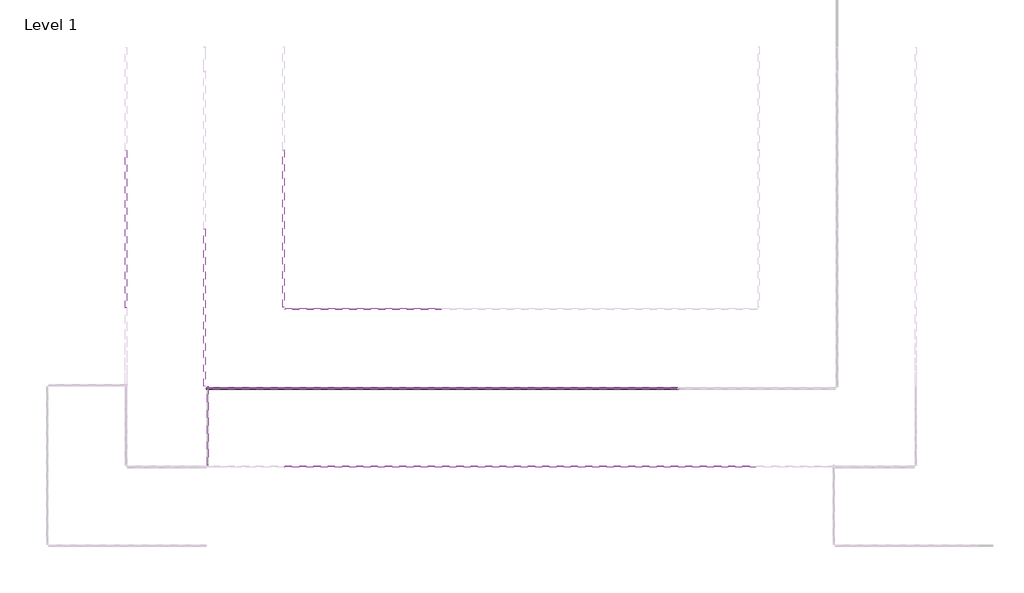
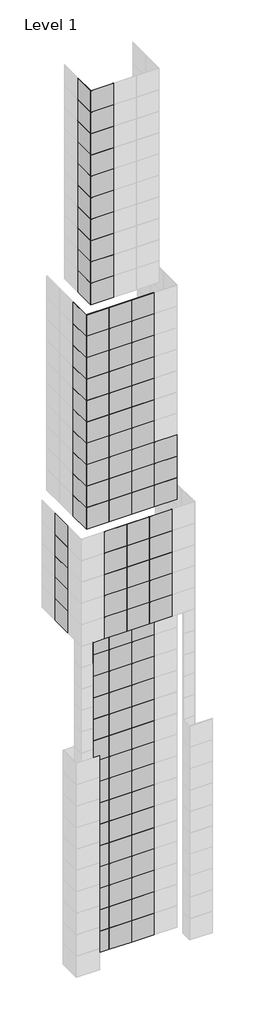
# One storey, part 2 of 15: 134 plates.
"""IFC4 building model written with IfcOpenShell, lengths in millimetres."""

from ifc_helpers import new_model, si_unit, origin, place, context, project, spatial, transform, mapped, element, save
from components import system_panel_glazed_aa64d645, system_panel_glazed_b248394d, system_panel_glazed_d5d3c74f

model = new_model("IFC4")

# Units and contexts
model_context = context("Model", 3, world=origin())
ifc_project = project(units=[si_unit("LENGTHUNIT", "METRE", prefix="MILLI")], contexts=[model_context])

# Site, building, storey
site = spatial("IfcSite", under=ifc_project)
building = spatial("IfcBuilding", under=site)
storey = spatial("IfcBuildingStorey", under=building, Name="Level 1", Elevation=0.0)

# Plates
placement = place(None, origin())
system_panel_glazed_shape = system_panel_glazed_aa64d645(model_context)
element("IfcPlate", 1, ObjectType="System Panel : Glazed", at=placement, inside=storey, context=model_context, shape_type="MappedRepresentation", body=[
    mapped(system_panel_glazed_shape, transform((-16267.4161695, -5742.0504489, 45720.0), x_axis=(1.0, 0.0, 0.0), y_axis=(0.0, 1.0, 0.0), z_axis=(0.0, 0.0, 1.0))),
])
element("IfcPlate", 2, ObjectType="System Panel : Glazed", at=placement, inside=storey, context=model_context, shape_type="MappedRepresentation", body=[
    mapped(system_panel_glazed_shape, transform((-13219.4161695, -5742.0504489, 45720.0), x_axis=(1.0, 0.0, 0.0), y_axis=(0.0, 1.0, 0.0), z_axis=(0.0, 0.0, 1.0))),
])
element("IfcPlate", 3, ObjectType="System Panel : Glazed", at=placement, inside=storey, context=model_context, shape_type="MappedRepresentation", body=[
    mapped(system_panel_glazed_shape, transform((-10171.4161695, -5742.0504489, 45720.0), x_axis=(1.0, 0.0, 0.0), y_axis=(0.0, 1.0, 0.0), z_axis=(0.0, 0.0, 1.0))),
])
element("IfcPlate", 4, ObjectType="System Panel : Glazed", at=placement, inside=storey, context=model_context, shape_type="MappedRepresentation", body=[
    mapped(system_panel_glazed_shape, transform((-16267.4161695, -5742.0504489, 48768.0), x_axis=(1.0, 0.0, 0.0), y_axis=(0.0, 1.0, 0.0), z_axis=(0.0, 0.0, 1.0))),
])
element("IfcPlate", 5, ObjectType="System Panel : Glazed", at=placement, inside=storey, context=model_context, shape_type="MappedRepresentation", body=[
    mapped(system_panel_glazed_shape, transform((-13219.4161695, -5742.0504489, 48768.0), x_axis=(1.0, 0.0, 0.0), y_axis=(0.0, 1.0, 0.0), z_axis=(0.0, 0.0, 1.0))),
])
element("IfcPlate", 6, ObjectType="System Panel : Glazed", at=placement, inside=storey, context=model_context, shape_type="MappedRepresentation", body=[
    mapped(system_panel_glazed_shape, transform((-10171.4161695, -5742.0504489, 48768.0), x_axis=(1.0, 0.0, 0.0), y_axis=(0.0, 1.0, 0.0), z_axis=(0.0, 0.0, 1.0))),
])
element("IfcPlate", 7, ObjectType="System Panel : Glazed", at=placement, inside=storey, context=model_context, shape_type="MappedRepresentation", body=[
    mapped(system_panel_glazed_shape, transform((-16267.4161695, -5742.0504489, 51816.0), x_axis=(1.0, 0.0, 0.0), y_axis=(0.0, 1.0, 0.0), z_axis=(0.0, 0.0, 1.0))),
])
element("IfcPlate", 8, ObjectType="System Panel : Glazed", at=placement, inside=storey, context=model_context, shape_type="MappedRepresentation", body=[
    mapped(system_panel_glazed_shape, transform((-13219.4161695, -5742.0504489, 51816.0), x_axis=(1.0, 0.0, 0.0), y_axis=(0.0, 1.0, 0.0), z_axis=(0.0, 0.0, 1.0))),
])
element("IfcPlate", 9, ObjectType="System Panel : Glazed", at=placement, inside=storey, context=model_context, shape_type="MappedRepresentation", body=[
    mapped(system_panel_glazed_shape, transform((-10171.4161695, -5742.0504489, 51816.0), x_axis=(1.0, 0.0, 0.0), y_axis=(0.0, 1.0, 0.0), z_axis=(0.0, 0.0, 1.0))),
])
element("IfcPlate", 10, ObjectType="System Panel : Glazed", at=placement, inside=storey, context=model_context, shape_type="MappedRepresentation", body=[
    mapped(system_panel_glazed_shape, transform((-16267.4161695, -5742.0504489, 54864.0), x_axis=(1.0, 0.0, 0.0), y_axis=(0.0, 1.0, 0.0), z_axis=(0.0, 0.0, 1.0))),
])
element("IfcPlate", 11, ObjectType="System Panel : Glazed", at=placement, inside=storey, context=model_context, shape_type="MappedRepresentation", body=[
    mapped(system_panel_glazed_shape, transform((-13219.4161695, -5742.0504489, 54864.0), x_axis=(1.0, 0.0, 0.0), y_axis=(0.0, 1.0, 0.0), z_axis=(0.0, 0.0, 1.0))),
])
element("IfcPlate", 12, ObjectType="System Panel : Glazed", at=placement, inside=storey, context=model_context, shape_type="MappedRepresentation", body=[
    mapped(system_panel_glazed_shape, transform((-10171.4161695, -5742.0504489, 54864.0), x_axis=(1.0, 0.0, 0.0), y_axis=(0.0, 1.0, 0.0), z_axis=(0.0, 0.0, 1.0))),
])
element("IfcPlate", 13, ObjectType="System Panel : Glazed", at=placement, inside=storey, context=model_context, shape_type="MappedRepresentation", body=[
    mapped(system_panel_glazed_shape, transform((-16267.4161695, -5742.0504489, 57912.0), x_axis=(1.0, 0.0, 0.0), y_axis=(0.0, 1.0, 0.0), z_axis=(0.0, 0.0, 1.0))),
])
element("IfcPlate", 14, ObjectType="System Panel : Glazed", at=placement, inside=storey, context=model_context, shape_type="MappedRepresentation", body=[
    mapped(system_panel_glazed_shape, transform((-13219.4161695, -5742.0504489, 57912.0), x_axis=(1.0, 0.0, 0.0), y_axis=(0.0, 1.0, 0.0), z_axis=(0.0, 0.0, 1.0))),
])
element("IfcPlate", 15, ObjectType="System Panel : Glazed", at=placement, inside=storey, context=model_context, shape_type="MappedRepresentation", body=[
    mapped(system_panel_glazed_shape, transform((-10171.4161695, -5742.0504489, 57912.0), x_axis=(1.0, 0.0, 0.0), y_axis=(0.0, 1.0, 0.0), z_axis=(0.0, 0.0, 1.0))),
])
element("IfcPlate", 16, ObjectType="System Panel : Glazed", at=placement, inside=storey, context=model_context, shape_type="MappedRepresentation", body=[
    mapped(system_panel_glazed_shape, transform((-20839.4161695, -1170.0504489, 45720.0), x_axis=(0.0, -1.0, 0.0), y_axis=(1.0, 0.0, 0.0), z_axis=(0.0, 0.0, 1.0))),
])
element("IfcPlate", 17, ObjectType="System Panel : Glazed", at=placement, inside=storey, context=model_context, shape_type="MappedRepresentation", body=[
    mapped(system_panel_glazed_shape, transform((-20839.4161695, -1170.0504489, 48768.0), x_axis=(0.0, -1.0, 0.0), y_axis=(1.0, 0.0, 0.0), z_axis=(0.0, 0.0, 1.0))),
])
element("IfcPlate", 18, ObjectType="System Panel : Glazed", at=placement, inside=storey, context=model_context, shape_type="MappedRepresentation", body=[
    mapped(system_panel_glazed_shape, transform((-20839.4161695, -1170.0504489, 51816.0), x_axis=(0.0, -1.0, 0.0), y_axis=(1.0, 0.0, 0.0), z_axis=(0.0, 0.0, 1.0))),
])
element("IfcPlate", 19, ObjectType="System Panel : Glazed", at=placement, inside=storey, context=model_context, shape_type="MappedRepresentation", body=[
    mapped(system_panel_glazed_shape, transform((-20839.4161695, -1170.0504489, 54864.0), x_axis=(0.0, -1.0, 0.0), y_axis=(1.0, 0.0, 0.0), z_axis=(0.0, 0.0, 1.0))),
])
element("IfcPlate", 20, ObjectType="System Panel : Glazed", at=placement, inside=storey, context=model_context, shape_type="MappedRepresentation", body=[
    mapped(system_panel_glazed_shape, transform((-20839.4161695, -1170.0504489, 57912.0), x_axis=(0.0, -1.0, 0.0), y_axis=(1.0, 0.0, 0.0), z_axis=(0.0, 0.0, 1.0))),
])
element("IfcPlate", 21, ObjectType="System Panel : Glazed", at=placement, inside=storey, context=model_context, shape_type="MappedRepresentation", body=[
    mapped(system_panel_glazed_shape, transform((-17791.4161695, -4218.0504489, 60960.0), x_axis=(1.0, 0.0, 0.0), y_axis=(0.0, 1.0, 0.0), z_axis=(0.0, 0.0, 1.0))),
])
element("IfcPlate", 22, ObjectType="System Panel : Glazed", at=placement, inside=storey, context=model_context, shape_type="MappedRepresentation", body=[
    mapped(system_panel_glazed_shape, transform((-14743.4161695, -4218.0504489, 60960.0), x_axis=(1.0, 0.0, 0.0), y_axis=(0.0, 1.0, 0.0), z_axis=(0.0, 0.0, 1.0))),
])
element("IfcPlate", 23, ObjectType="System Panel : Glazed", at=placement, inside=storey, context=model_context, shape_type="MappedRepresentation", body=[
    mapped(system_panel_glazed_shape, transform((-11695.4161695, -4218.0504489, 60960.0), x_axis=(1.0, 0.0, 0.0), y_axis=(0.0, 1.0, 0.0), z_axis=(0.0, 0.0, 1.0))),
])
element("IfcPlate", 24, ObjectType="System Panel : Glazed", at=placement, inside=storey, context=model_context, shape_type="MappedRepresentation", body=[
    mapped(system_panel_glazed_shape, transform((-8647.4161695, -4218.0504489, 60960.0), x_axis=(1.0, 0.0, 0.0), y_axis=(0.0, 1.0, 0.0), z_axis=(0.0, 0.0, 1.0))),
])
element("IfcPlate", 25, ObjectType="System Panel : Glazed", at=placement, inside=storey, context=model_context, shape_type="MappedRepresentation", body=[
    mapped(system_panel_glazed_shape, transform((-17791.4161695, -4218.0504489, 64008.0), x_axis=(1.0, 0.0, 0.0), y_axis=(0.0, 1.0, 0.0), z_axis=(0.0, 0.0, 1.0))),
])
element("IfcPlate", 26, ObjectType="System Panel : Glazed", at=placement, inside=storey, context=model_context, shape_type="MappedRepresentation", body=[
    mapped(system_panel_glazed_shape, transform((-14743.4161695, -4218.0504489, 64008.0), x_axis=(1.0, 0.0, 0.0), y_axis=(0.0, 1.0, 0.0), z_axis=(0.0, 0.0, 1.0))),
])
element("IfcPlate", 27, ObjectType="System Panel : Glazed", at=placement, inside=storey, context=model_context, shape_type="MappedRepresentation", body=[
    mapped(system_panel_glazed_shape, transform((-11695.4161695, -4218.0504489, 64008.0), x_axis=(1.0, 0.0, 0.0), y_axis=(0.0, 1.0, 0.0), z_axis=(0.0, 0.0, 1.0))),
])
element("IfcPlate", 28, ObjectType="System Panel : Glazed", at=placement, inside=storey, context=model_context, shape_type="MappedRepresentation", body=[
    mapped(system_panel_glazed_shape, transform((-8647.4161695, -4218.0504489, 64008.0), x_axis=(1.0, 0.0, 0.0), y_axis=(0.0, 1.0, 0.0), z_axis=(0.0, 0.0, 1.0))),
])
element("IfcPlate", 29, ObjectType="System Panel : Glazed", at=placement, inside=storey, context=model_context, shape_type="MappedRepresentation", body=[
    mapped(system_panel_glazed_shape, transform((-17791.4161695, -4218.0504489, 67056.0), x_axis=(1.0, 0.0, 0.0), y_axis=(0.0, 1.0, 0.0), z_axis=(0.0, 0.0, 1.0))),
])
element("IfcPlate", 30, ObjectType="System Panel : Glazed", at=placement, inside=storey, context=model_context, shape_type="MappedRepresentation", body=[
    mapped(system_panel_glazed_shape, transform((-14743.4161695, -4218.0504489, 67056.0), x_axis=(1.0, 0.0, 0.0), y_axis=(0.0, 1.0, 0.0), z_axis=(0.0, 0.0, 1.0))),
])
element("IfcPlate", 31, ObjectType="System Panel : Glazed", at=placement, inside=storey, context=model_context, shape_type="MappedRepresentation", body=[
    mapped(system_panel_glazed_shape, transform((-11695.4161695, -4218.0504489, 67056.0), x_axis=(1.0, 0.0, 0.0), y_axis=(0.0, 1.0, 0.0), z_axis=(0.0, 0.0, 1.0))),
])
element("IfcPlate", 32, ObjectType="System Panel : Glazed", at=placement, inside=storey, context=model_context, shape_type="MappedRepresentation", body=[
    mapped(system_panel_glazed_shape, transform((-8647.4161695, -4218.0504489, 67056.0), x_axis=(1.0, 0.0, 0.0), y_axis=(0.0, 1.0, 0.0), z_axis=(0.0, 0.0, 1.0))),
])
element("IfcPlate", 33, ObjectType="System Panel : Glazed", at=placement, inside=storey, context=model_context, shape_type="MappedRepresentation", body=[
    mapped(system_panel_glazed_shape, transform((-17791.4161695, -4218.0504489, 70104.0), x_axis=(1.0, 0.0, 0.0), y_axis=(0.0, 1.0, 0.0), z_axis=(0.0, 0.0, 1.0))),
])
element("IfcPlate", 34, ObjectType="System Panel : Glazed", at=placement, inside=storey, context=model_context, shape_type="MappedRepresentation", body=[
    mapped(system_panel_glazed_shape, transform((-14743.4161695, -4218.0504489, 70104.0), x_axis=(1.0, 0.0, 0.0), y_axis=(0.0, 1.0, 0.0), z_axis=(0.0, 0.0, 1.0))),
])
element("IfcPlate", 35, ObjectType="System Panel : Glazed", at=placement, inside=storey, context=model_context, shape_type="MappedRepresentation", body=[
    mapped(system_panel_glazed_shape, transform((-11695.4161695, -4218.0504489, 70104.0), x_axis=(1.0, 0.0, 0.0), y_axis=(0.0, 1.0, 0.0), z_axis=(0.0, 0.0, 1.0))),
])
element("IfcPlate", 36, ObjectType="System Panel : Glazed", at=placement, inside=storey, context=model_context, shape_type="MappedRepresentation", body=[
    mapped(system_panel_glazed_shape, transform((-17791.4161695, -4218.0504489, 73152.0), x_axis=(1.0, 0.0, 0.0), y_axis=(0.0, 1.0, 0.0), z_axis=(0.0, 0.0, 1.0))),
])
element("IfcPlate", 37, ObjectType="System Panel : Glazed", at=placement, inside=storey, context=model_context, shape_type="MappedRepresentation", body=[
    mapped(system_panel_glazed_shape, transform((-14743.4161695, -4218.0504489, 73152.0), x_axis=(1.0, 0.0, 0.0), y_axis=(0.0, 1.0, 0.0), z_axis=(0.0, 0.0, 1.0))),
])
element("IfcPlate", 38, ObjectType="System Panel : Glazed", at=placement, inside=storey, context=model_context, shape_type="MappedRepresentation", body=[
    mapped(system_panel_glazed_shape, transform((-11695.4161695, -4218.0504489, 73152.0), x_axis=(1.0, 0.0, 0.0), y_axis=(0.0, 1.0, 0.0), z_axis=(0.0, 0.0, 1.0))),
])
element("IfcPlate", 39, ObjectType="System Panel : Glazed", at=placement, inside=storey, context=model_context, shape_type="MappedRepresentation", body=[
    mapped(system_panel_glazed_shape, transform((-17791.4161695, -4218.0504489, 76200.0), x_axis=(1.0, 0.0, 0.0), y_axis=(0.0, 1.0, 0.0), z_axis=(0.0, 0.0, 1.0))),
])
element("IfcPlate", 40, ObjectType="System Panel : Glazed", at=placement, inside=storey, context=model_context, shape_type="MappedRepresentation", body=[
    mapped(system_panel_glazed_shape, transform((-14743.4161695, -4218.0504489, 76200.0), x_axis=(1.0, 0.0, 0.0), y_axis=(0.0, 1.0, 0.0), z_axis=(0.0, 0.0, 1.0))),
])
element("IfcPlate", 41, ObjectType="System Panel : Glazed", at=placement, inside=storey, context=model_context, shape_type="MappedRepresentation", body=[
    mapped(system_panel_glazed_shape, transform((-11695.4161695, -4218.0504489, 76200.0), x_axis=(1.0, 0.0, 0.0), y_axis=(0.0, 1.0, 0.0), z_axis=(0.0, 0.0, 1.0))),
])
element("IfcPlate", 42, ObjectType="System Panel : Glazed", at=placement, inside=storey, context=model_context, shape_type="MappedRepresentation", body=[
    mapped(system_panel_glazed_shape, transform((-17791.4161695, -4218.0504489, 79248.0), x_axis=(1.0, 0.0, 0.0), y_axis=(0.0, 1.0, 0.0), z_axis=(0.0, 0.0, 1.0))),
])
element("IfcPlate", 43, ObjectType="System Panel : Glazed", at=placement, inside=storey, context=model_context, shape_type="MappedRepresentation", body=[
    mapped(system_panel_glazed_shape, transform((-14743.4161695, -4218.0504489, 79248.0), x_axis=(1.0, 0.0, 0.0), y_axis=(0.0, 1.0, 0.0), z_axis=(0.0, 0.0, 1.0))),
])
element("IfcPlate", 44, ObjectType="System Panel : Glazed", at=placement, inside=storey, context=model_context, shape_type="MappedRepresentation", body=[
    mapped(system_panel_glazed_shape, transform((-11695.4161695, -4218.0504489, 79248.0), x_axis=(1.0, 0.0, 0.0), y_axis=(0.0, 1.0, 0.0), z_axis=(0.0, 0.0, 1.0))),
])
element("IfcPlate", 45, ObjectType="System Panel : Glazed", at=placement, inside=storey, context=model_context, shape_type="MappedRepresentation", body=[
    mapped(system_panel_glazed_shape, transform((-17791.4161695, -4218.0504489, 82296.0), x_axis=(1.0, 0.0, 0.0), y_axis=(0.0, 1.0, 0.0), z_axis=(0.0, 0.0, 1.0))),
])
element("IfcPlate", 46, ObjectType="System Panel : Glazed", at=placement, inside=storey, context=model_context, shape_type="MappedRepresentation", body=[
    mapped(system_panel_glazed_shape, transform((-14743.4161695, -4218.0504489, 82296.0), x_axis=(1.0, 0.0, 0.0), y_axis=(0.0, 1.0, 0.0), z_axis=(0.0, 0.0, 1.0))),
])
element("IfcPlate", 47, ObjectType="System Panel : Glazed", at=placement, inside=storey, context=model_context, shape_type="MappedRepresentation", body=[
    mapped(system_panel_glazed_shape, transform((-11695.4161695, -4218.0504489, 82296.0), x_axis=(1.0, 0.0, 0.0), y_axis=(0.0, 1.0, 0.0), z_axis=(0.0, 0.0, 1.0))),
])
element("IfcPlate", 48, ObjectType="System Panel : Glazed", at=placement, inside=storey, context=model_context, shape_type="MappedRepresentation", body=[
    mapped(system_panel_glazed_shape, transform((-17791.4161695, -4218.0504489, 85344.0), x_axis=(1.0, 0.0, 0.0), y_axis=(0.0, 1.0, 0.0), z_axis=(0.0, 0.0, 1.0))),
])
element("IfcPlate", 49, ObjectType="System Panel : Glazed", at=placement, inside=storey, context=model_context, shape_type="MappedRepresentation", body=[
    mapped(system_panel_glazed_shape, transform((-14743.4161695, -4218.0504489, 85344.0), x_axis=(1.0, 0.0, 0.0), y_axis=(0.0, 1.0, 0.0), z_axis=(0.0, 0.0, 1.0))),
])
element("IfcPlate", 50, ObjectType="System Panel : Glazed", at=placement, inside=storey, context=model_context, shape_type="MappedRepresentation", body=[
    mapped(system_panel_glazed_shape, transform((-11695.4161695, -4218.0504489, 85344.0), x_axis=(1.0, 0.0, 0.0), y_axis=(0.0, 1.0, 0.0), z_axis=(0.0, 0.0, 1.0))),
])
element("IfcPlate", 51, ObjectType="System Panel : Glazed", at=placement, inside=storey, context=model_context, shape_type="MappedRepresentation", body=[
    mapped(system_panel_glazed_shape, transform((-17791.4161695, -4218.0504489, 88392.0), x_axis=(1.0, 0.0, 0.0), y_axis=(0.0, 1.0, 0.0), z_axis=(0.0, 0.0, 1.0))),
])
element("IfcPlate", 52, ObjectType="System Panel : Glazed", at=placement, inside=storey, context=model_context, shape_type="MappedRepresentation", body=[
    mapped(system_panel_glazed_shape, transform((-14743.4161695, -4218.0504489, 88392.0), x_axis=(1.0, 0.0, 0.0), y_axis=(0.0, 1.0, 0.0), z_axis=(0.0, 0.0, 1.0))),
])
element("IfcPlate", 53, ObjectType="System Panel : Glazed", at=placement, inside=storey, context=model_context, shape_type="MappedRepresentation", body=[
    mapped(system_panel_glazed_shape, transform((-11695.4161695, -4218.0504489, 88392.0), x_axis=(1.0, 0.0, 0.0), y_axis=(0.0, 1.0, 0.0), z_axis=(0.0, 0.0, 1.0))),
])
element("IfcPlate", 54, ObjectType="System Panel : Glazed", at=placement, inside=storey, context=model_context, shape_type="MappedRepresentation", body=[
    mapped(system_panel_glazed_shape, transform((-19315.4161695, -2694.0504489, 60960.0), x_axis=(0.0, -1.0, 0.0), y_axis=(1.0, 0.0, 0.0), z_axis=(0.0, 0.0, 1.0))),
])
element("IfcPlate", 55, ObjectType="System Panel : Glazed", at=placement, inside=storey, context=model_context, shape_type="MappedRepresentation", body=[
    mapped(system_panel_glazed_shape, transform((-19315.4161695, -2694.0504489, 64008.0), x_axis=(0.0, -1.0, 0.0), y_axis=(1.0, 0.0, 0.0), z_axis=(0.0, 0.0, 1.0))),
])
element("IfcPlate", 56, ObjectType="System Panel : Glazed", at=placement, inside=storey, context=model_context, shape_type="MappedRepresentation", body=[
    mapped(system_panel_glazed_shape, transform((-19315.4161695, -2694.0504489, 67056.0), x_axis=(0.0, -1.0, 0.0), y_axis=(1.0, 0.0, 0.0), z_axis=(0.0, 0.0, 1.0))),
])
element("IfcPlate", 57, ObjectType="System Panel : Glazed", at=placement, inside=storey, context=model_context, shape_type="MappedRepresentation", body=[
    mapped(system_panel_glazed_shape, transform((-19315.4161695, -2694.0504489, 70104.0), x_axis=(0.0, -1.0, 0.0), y_axis=(1.0, 0.0, 0.0), z_axis=(0.0, 0.0, 1.0))),
])
element("IfcPlate", 58, ObjectType="System Panel : Glazed", at=placement, inside=storey, context=model_context, shape_type="MappedRepresentation", body=[
    mapped(system_panel_glazed_shape, transform((-19315.4161695, -2694.0504489, 73152.0), x_axis=(0.0, -1.0, 0.0), y_axis=(1.0, 0.0, 0.0), z_axis=(0.0, 0.0, 1.0))),
])
element("IfcPlate", 59, ObjectType="System Panel : Glazed", at=placement, inside=storey, context=model_context, shape_type="MappedRepresentation", body=[
    mapped(system_panel_glazed_shape, transform((-19315.4161695, -2694.0504489, 76200.0), x_axis=(0.0, -1.0, 0.0), y_axis=(1.0, 0.0, 0.0), z_axis=(0.0, 0.0, 1.0))),
])
element("IfcPlate", 60, ObjectType="System Panel : Glazed", at=placement, inside=storey, context=model_context, shape_type="MappedRepresentation", body=[
    mapped(system_panel_glazed_shape, transform((-19315.4161695, -2694.0504489, 79248.0), x_axis=(0.0, -1.0, 0.0), y_axis=(1.0, 0.0, 0.0), z_axis=(0.0, 0.0, 1.0))),
])
element("IfcPlate", 61, ObjectType="System Panel : Glazed", at=placement, inside=storey, context=model_context, shape_type="MappedRepresentation", body=[
    mapped(system_panel_glazed_shape, transform((-19315.4161695, -2694.0504489, 82296.0), x_axis=(0.0, -1.0, 0.0), y_axis=(1.0, 0.0, 0.0), z_axis=(0.0, 0.0, 1.0))),
])
element("IfcPlate", 62, ObjectType="System Panel : Glazed", at=placement, inside=storey, context=model_context, shape_type="MappedRepresentation", body=[
    mapped(system_panel_glazed_shape, transform((-19315.4161695, -2694.0504489, 85344.0), x_axis=(0.0, -1.0, 0.0), y_axis=(1.0, 0.0, 0.0), z_axis=(0.0, 0.0, 1.0))),
])
element("IfcPlate", 63, ObjectType="System Panel : Glazed", at=placement, inside=storey, context=model_context, shape_type="MappedRepresentation", body=[
    mapped(system_panel_glazed_shape, transform((-19315.4161695, -2694.0504489, 88392.0), x_axis=(0.0, -1.0, 0.0), y_axis=(1.0, 0.0, 0.0), z_axis=(0.0, 0.0, 1.0))),
])
element("IfcPlate", 64, ObjectType="System Panel : Glazed", at=placement, inside=storey, context=model_context, shape_type="MappedRepresentation", body=[
    mapped(system_panel_glazed_shape, transform((-16261.8488996, -2694.0504489, 91440.0), x_axis=(1.0, 0.0, 0.0), y_axis=(0.0, 1.0, 0.0), z_axis=(0.0, 0.0, 1.0))),
])
element("IfcPlate", 65, ObjectType="System Panel : Glazed", at=placement, inside=storey, context=model_context, shape_type="MappedRepresentation", body=[
    mapped(system_panel_glazed_shape, transform((-16261.8488996, -2694.0504489, 94488.0), x_axis=(1.0, 0.0, 0.0), y_axis=(0.0, 1.0, 0.0), z_axis=(0.0, 0.0, 1.0))),
])
element("IfcPlate", 66, ObjectType="System Panel : Glazed", at=placement, inside=storey, context=model_context, shape_type="MappedRepresentation", body=[
    mapped(system_panel_glazed_shape, transform((-16261.8488996, -2694.0504489, 97536.0), x_axis=(1.0, 0.0, 0.0), y_axis=(0.0, 1.0, 0.0), z_axis=(0.0, 0.0, 1.0))),
])
element("IfcPlate", 67, ObjectType="System Panel : Glazed", at=placement, inside=storey, context=model_context, shape_type="MappedRepresentation", body=[
    mapped(system_panel_glazed_shape, transform((-16261.8488996, -2694.0504489, 100584.0), x_axis=(1.0, 0.0, 0.0), y_axis=(0.0, 1.0, 0.0), z_axis=(0.0, 0.0, 1.0))),
])
element("IfcPlate", 68, ObjectType="System Panel : Glazed", at=placement, inside=storey, context=model_context, shape_type="MappedRepresentation", body=[
    mapped(system_panel_glazed_shape, transform((-16261.8488996, -2694.0504489, 103632.0), x_axis=(1.0, 0.0, 0.0), y_axis=(0.0, 1.0, 0.0), z_axis=(0.0, 0.0, 1.0))),
])
element("IfcPlate", 69, ObjectType="System Panel : Glazed", at=placement, inside=storey, context=model_context, shape_type="MappedRepresentation", body=[
    mapped(system_panel_glazed_shape, transform((-16261.8488996, -2694.0504489, 106680.0), x_axis=(1.0, 0.0, 0.0), y_axis=(0.0, 1.0, 0.0), z_axis=(0.0, 0.0, 1.0))),
])
element("IfcPlate", 70, ObjectType="System Panel : Glazed", at=placement, inside=storey, context=model_context, shape_type="MappedRepresentation", body=[
    mapped(system_panel_glazed_shape, transform((-16261.8488996, -2694.0504489, 109728.0), x_axis=(1.0, 0.0, 0.0), y_axis=(0.0, 1.0, 0.0), z_axis=(0.0, 0.0, 1.0))),
])
element("IfcPlate", 71, ObjectType="System Panel : Glazed", at=placement, inside=storey, context=model_context, shape_type="MappedRepresentation", body=[
    mapped(system_panel_glazed_shape, transform((-16261.8488996, -2694.0504489, 112776.0), x_axis=(1.0, 0.0, 0.0), y_axis=(0.0, 1.0, 0.0), z_axis=(0.0, 0.0, 1.0))),
])
element("IfcPlate", 72, ObjectType="System Panel : Glazed", at=placement, inside=storey, context=model_context, shape_type="MappedRepresentation", body=[
    mapped(system_panel_glazed_shape, transform((-16261.8488996, -2694.0504489, 115824.0), x_axis=(1.0, 0.0, 0.0), y_axis=(0.0, 1.0, 0.0), z_axis=(0.0, 0.0, 1.0))),
])
element("IfcPlate", 73, ObjectType="System Panel : Glazed", at=placement, inside=storey, context=model_context, shape_type="MappedRepresentation", body=[
    mapped(system_panel_glazed_shape, transform((-16261.8488996, -2694.0504489, 118872.0), x_axis=(1.0, 0.0, 0.0), y_axis=(0.0, 1.0, 0.0), z_axis=(0.0, 0.0, 1.0))),
])
element("IfcPlate", 74, ObjectType="System Panel : Glazed", at=placement, inside=storey, context=model_context, shape_type="MappedRepresentation", body=[
    mapped(system_panel_glazed_shape, transform((-17785.8488996, -1170.0504489, 91440.0), x_axis=(0.0, -1.0, 0.0), y_axis=(1.0, 0.0, 0.0), z_axis=(0.0, 0.0, 1.0))),
])
element("IfcPlate", 75, ObjectType="System Panel : Glazed", at=placement, inside=storey, context=model_context, shape_type="MappedRepresentation", body=[
    mapped(system_panel_glazed_shape, transform((-17785.8488996, -1170.0504489, 94488.0), x_axis=(0.0, -1.0, 0.0), y_axis=(1.0, 0.0, 0.0), z_axis=(0.0, 0.0, 1.0))),
])
element("IfcPlate", 76, ObjectType="System Panel : Glazed", at=placement, inside=storey, context=model_context, shape_type="MappedRepresentation", body=[
    mapped(system_panel_glazed_shape, transform((-17785.8488996, -1170.0504489, 97536.0), x_axis=(0.0, -1.0, 0.0), y_axis=(1.0, 0.0, 0.0), z_axis=(0.0, 0.0, 1.0))),
])
element("IfcPlate", 77, ObjectType="System Panel : Glazed", at=placement, inside=storey, context=model_context, shape_type="MappedRepresentation", body=[
    mapped(system_panel_glazed_shape, transform((-17785.8488996, -1170.0504489, 100584.0), x_axis=(0.0, -1.0, 0.0), y_axis=(1.0, 0.0, 0.0), z_axis=(0.0, 0.0, 1.0))),
])
element("IfcPlate", 78, ObjectType="System Panel : Glazed", at=placement, inside=storey, context=model_context, shape_type="MappedRepresentation", body=[
    mapped(system_panel_glazed_shape, transform((-17785.8488996, -1170.0504489, 103632.0), x_axis=(0.0, -1.0, 0.0), y_axis=(1.0, 0.0, 0.0), z_axis=(0.0, 0.0, 1.0))),
])
element("IfcPlate", 79, ObjectType="System Panel : Glazed", at=placement, inside=storey, context=model_context, shape_type="MappedRepresentation", body=[
    mapped(system_panel_glazed_shape, transform((-17785.8488996, -1170.0504489, 106680.0), x_axis=(0.0, -1.0, 0.0), y_axis=(1.0, 0.0, 0.0), z_axis=(0.0, 0.0, 1.0))),
])
element("IfcPlate", 80, ObjectType="System Panel : Glazed", at=placement, inside=storey, context=model_context, shape_type="MappedRepresentation", body=[
    mapped(system_panel_glazed_shape, transform((-17785.8488996, -1170.0504489, 109728.0), x_axis=(0.0, -1.0, 0.0), y_axis=(1.0, 0.0, 0.0), z_axis=(0.0, 0.0, 1.0))),
])
element("IfcPlate", 81, ObjectType="System Panel : Glazed", at=placement, inside=storey, context=model_context, shape_type="MappedRepresentation", body=[
    mapped(system_panel_glazed_shape, transform((-17785.8488996, -1170.0504489, 112776.0), x_axis=(0.0, -1.0, 0.0), y_axis=(1.0, 0.0, 0.0), z_axis=(0.0, 0.0, 1.0))),
])
element("IfcPlate", 82, ObjectType="System Panel : Glazed", at=placement, inside=storey, context=model_context, shape_type="MappedRepresentation", body=[
    mapped(system_panel_glazed_shape, transform((-17785.8488996, -1170.0504489, 115824.0), x_axis=(0.0, -1.0, 0.0), y_axis=(1.0, 0.0, 0.0), z_axis=(0.0, 0.0, 1.0))),
])
element("IfcPlate", 83, ObjectType="System Panel : Glazed", at=placement, inside=storey, context=model_context, shape_type="MappedRepresentation", body=[
    mapped(system_panel_glazed_shape, transform((-17785.8488996, -1170.0504489, 118872.0), x_axis=(0.0, -1.0, 0.0), y_axis=(1.0, 0.0, 0.0), z_axis=(0.0, 0.0, 1.0))),
])
element("IfcPlate", 84, ObjectType="System Panel : Glazed", at=placement, inside=storey, context=model_context, shape_type="MappedRepresentation", body=[
    mapped(system_panel_glazed_shape, transform((-20839.4161695, -1170.0504489, 45720.0), x_axis=(0.0, -1.0, 0.0), y_axis=(1.0, 0.0, 0.0), z_axis=(0.0, 0.0, 1.0))),
])
element("IfcPlate", 85, ObjectType="System Panel : Glazed", at=placement, inside=storey, context=model_context, shape_type="MappedRepresentation", body=[
    mapped(system_panel_glazed_shape, transform((-20839.4161695, -1170.0504489, 48768.0), x_axis=(0.0, -1.0, 0.0), y_axis=(1.0, 0.0, 0.0), z_axis=(0.0, 0.0, 1.0))),
])
element("IfcPlate", 86, ObjectType="System Panel : Glazed", at=placement, inside=storey, context=model_context, shape_type="MappedRepresentation", body=[
    mapped(system_panel_glazed_shape, transform((-20839.4161695, -1170.0504489, 51816.0), x_axis=(0.0, -1.0, 0.0), y_axis=(1.0, 0.0, 0.0), z_axis=(0.0, 0.0, 1.0))),
])
element("IfcPlate", 87, ObjectType="System Panel : Glazed", at=placement, inside=storey, context=model_context, shape_type="MappedRepresentation", body=[
    mapped(system_panel_glazed_shape, transform((-20839.4161695, -1170.0504489, 54864.0), x_axis=(0.0, -1.0, 0.0), y_axis=(1.0, 0.0, 0.0), z_axis=(0.0, 0.0, 1.0))),
])
element("IfcPlate", 88, ObjectType="System Panel : Glazed", at=placement, inside=storey, context=model_context, shape_type="MappedRepresentation", body=[
    mapped(system_panel_glazed_shape, transform((-20839.4161695, -1170.0504489, 57912.0), x_axis=(0.0, -1.0, 0.0), y_axis=(1.0, 0.0, 0.0), z_axis=(0.0, 0.0, 1.0))),
])
system_panel_glazed_2_shape = system_panel_glazed_b248394d(model_context)
element("IfcPlate", 89, ObjectType="System Panel : Glazed", at=placement, inside=storey, context=model_context, shape_type="MappedRepresentation", body=[
    mapped(system_panel_glazed_2_shape, transform((-11695.4161695, -4218.0504489, 0.0), x_axis=(-1.0, 0.0, 0.0), y_axis=(0.0, -1.0, 0.0), z_axis=(0.0, 0.0, 1.0))),
])
element("IfcPlate", 90, ObjectType="System Panel : Glazed", at=placement, inside=storey, context=model_context, shape_type="MappedRepresentation", body=[
    mapped(system_panel_glazed_2_shape, transform((-14743.4161695, -4218.0504489, 0.0), x_axis=(-1.0, 0.0, 0.0), y_axis=(0.0, -1.0, 0.0), z_axis=(0.0, 0.0, 1.0))),
])
element("IfcPlate", 91, ObjectType="System Panel : Glazed", at=placement, inside=storey, context=model_context, shape_type="MappedRepresentation", body=[
    mapped(system_panel_glazed_2_shape, transform((-17791.4161695, -4218.0504489, 0.0), x_axis=(-1.0, 0.0, 0.0), y_axis=(0.0, -1.0, 0.0), z_axis=(0.0, 0.0, 1.0))),
])
element("IfcPlate", 92, ObjectType="System Panel : Glazed", at=placement, inside=storey, context=model_context, shape_type="MappedRepresentation", body=[
    mapped(system_panel_glazed_2_shape, transform((-11695.4161695, -4218.0504489, 3048.0), x_axis=(-1.0, 0.0, 0.0), y_axis=(0.0, -1.0, 0.0), z_axis=(0.0, 0.0, 1.0))),
])
element("IfcPlate", 93, ObjectType="System Panel : Glazed", at=placement, inside=storey, context=model_context, shape_type="MappedRepresentation", body=[
    mapped(system_panel_glazed_2_shape, transform((-14743.4161695, -4218.0504489, 3048.0), x_axis=(-1.0, 0.0, 0.0), y_axis=(0.0, -1.0, 0.0), z_axis=(0.0, 0.0, 1.0))),
])
element("IfcPlate", 94, ObjectType="System Panel : Glazed", at=placement, inside=storey, context=model_context, shape_type="MappedRepresentation", body=[
    mapped(system_panel_glazed_2_shape, transform((-17791.4161695, -4218.0504489, 3048.0), x_axis=(-1.0, 0.0, 0.0), y_axis=(0.0, -1.0, 0.0), z_axis=(0.0, 0.0, 1.0))),
])
element("IfcPlate", 95, ObjectType="System Panel : Glazed", at=placement, inside=storey, context=model_context, shape_type="MappedRepresentation", body=[
    mapped(system_panel_glazed_2_shape, transform((-11695.4161695, -4218.0504489, 6096.0), x_axis=(-1.0, 0.0, 0.0), y_axis=(0.0, -1.0, 0.0), z_axis=(0.0, 0.0, 1.0))),
])
element("IfcPlate", 96, ObjectType="System Panel : Glazed", at=placement, inside=storey, context=model_context, shape_type="MappedRepresentation", body=[
    mapped(system_panel_glazed_2_shape, transform((-14743.4161695, -4218.0504489, 6096.0), x_axis=(-1.0, 0.0, 0.0), y_axis=(0.0, -1.0, 0.0), z_axis=(0.0, 0.0, 1.0))),
])
element("IfcPlate", 97, ObjectType="System Panel : Glazed", at=placement, inside=storey, context=model_context, shape_type="MappedRepresentation", body=[
    mapped(system_panel_glazed_2_shape, transform((-17791.4161695, -4218.0504489, 6096.0), x_axis=(-1.0, 0.0, 0.0), y_axis=(0.0, -1.0, 0.0), z_axis=(0.0, 0.0, 1.0))),
])
element("IfcPlate", 98, ObjectType="System Panel : Glazed", at=placement, inside=storey, context=model_context, shape_type="MappedRepresentation", body=[
    mapped(system_panel_glazed_2_shape, transform((-11695.4161695, -4218.0504489, 9144.0), x_axis=(-1.0, 0.0, 0.0), y_axis=(0.0, -1.0, 0.0), z_axis=(0.0, 0.0, 1.0))),
])
element("IfcPlate", 99, ObjectType="System Panel : Glazed", at=placement, inside=storey, context=model_context, shape_type="MappedRepresentation", body=[
    mapped(system_panel_glazed_2_shape, transform((-14743.4161695, -4218.0504489, 9144.0), x_axis=(-1.0, 0.0, 0.0), y_axis=(0.0, -1.0, 0.0), z_axis=(0.0, 0.0, 1.0))),
])
element("IfcPlate", 100, ObjectType="System Panel : Glazed", at=placement, inside=storey, context=model_context, shape_type="MappedRepresentation", body=[
    mapped(system_panel_glazed_2_shape, transform((-17791.4161695, -4218.0504489, 9144.0), x_axis=(-1.0, 0.0, 0.0), y_axis=(0.0, -1.0, 0.0), z_axis=(0.0, 0.0, 1.0))),
])
element("IfcPlate", 101, ObjectType="System Panel : Glazed", at=placement, inside=storey, context=model_context, shape_type="MappedRepresentation", body=[
    mapped(system_panel_glazed_2_shape, transform((-11695.4161695, -4218.0504489, 12192.0), x_axis=(-1.0, 0.0, 0.0), y_axis=(0.0, -1.0, 0.0), z_axis=(0.0, 0.0, 1.0))),
])
element("IfcPlate", 102, ObjectType="System Panel : Glazed", at=placement, inside=storey, context=model_context, shape_type="MappedRepresentation", body=[
    mapped(system_panel_glazed_2_shape, transform((-14743.4161695, -4218.0504489, 12192.0), x_axis=(-1.0, 0.0, 0.0), y_axis=(0.0, -1.0, 0.0), z_axis=(0.0, 0.0, 1.0))),
])
element("IfcPlate", 103, ObjectType="System Panel : Glazed", at=placement, inside=storey, context=model_context, shape_type="MappedRepresentation", body=[
    mapped(system_panel_glazed_2_shape, transform((-17791.4161695, -4218.0504489, 12192.0), x_axis=(-1.0, 0.0, 0.0), y_axis=(0.0, -1.0, 0.0), z_axis=(0.0, 0.0, 1.0))),
])
element("IfcPlate", 104, ObjectType="System Panel : Glazed", at=placement, inside=storey, context=model_context, shape_type="MappedRepresentation", body=[
    mapped(system_panel_glazed_2_shape, transform((-11695.4161695, -4218.0504489, 15240.0), x_axis=(-1.0, 0.0, 0.0), y_axis=(0.0, -1.0, 0.0), z_axis=(0.0, 0.0, 1.0))),
])
element("IfcPlate", 105, ObjectType="System Panel : Glazed", at=placement, inside=storey, context=model_context, shape_type="MappedRepresentation", body=[
    mapped(system_panel_glazed_2_shape, transform((-14743.4161695, -4218.0504489, 15240.0), x_axis=(-1.0, 0.0, 0.0), y_axis=(0.0, -1.0, 0.0), z_axis=(0.0, 0.0, 1.0))),
])
element("IfcPlate", 106, ObjectType="System Panel : Glazed", at=placement, inside=storey, context=model_context, shape_type="MappedRepresentation", body=[
    mapped(system_panel_glazed_2_shape, transform((-17791.4161695, -4218.0504489, 15240.0), x_axis=(-1.0, 0.0, 0.0), y_axis=(0.0, -1.0, 0.0), z_axis=(0.0, 0.0, 1.0))),
])
element("IfcPlate", 107, ObjectType="System Panel : Glazed", at=placement, inside=storey, context=model_context, shape_type="MappedRepresentation", body=[
    mapped(system_panel_glazed_2_shape, transform((-11695.4161695, -4218.0504489, 18288.0), x_axis=(-1.0, 0.0, 0.0), y_axis=(0.0, -1.0, 0.0), z_axis=(0.0, 0.0, 1.0))),
])
element("IfcPlate", 108, ObjectType="System Panel : Glazed", at=placement, inside=storey, context=model_context, shape_type="MappedRepresentation", body=[
    mapped(system_panel_glazed_2_shape, transform((-14743.4161695, -4218.0504489, 18288.0), x_axis=(-1.0, 0.0, 0.0), y_axis=(0.0, -1.0, 0.0), z_axis=(0.0, 0.0, 1.0))),
])
element("IfcPlate", 109, ObjectType="System Panel : Glazed", at=placement, inside=storey, context=model_context, shape_type="MappedRepresentation", body=[
    mapped(system_panel_glazed_2_shape, transform((-17791.4161695, -4218.0504489, 18288.0), x_axis=(-1.0, 0.0, 0.0), y_axis=(0.0, -1.0, 0.0), z_axis=(0.0, 0.0, 1.0))),
])
element("IfcPlate", 110, ObjectType="System Panel : Glazed", at=placement, inside=storey, context=model_context, shape_type="MappedRepresentation", body=[
    mapped(system_panel_glazed_2_shape, transform((-11695.4161695, -4218.0504489, 21336.0), x_axis=(-1.0, 0.0, 0.0), y_axis=(0.0, -1.0, 0.0), z_axis=(0.0, 0.0, 1.0))),
])
element("IfcPlate", 111, ObjectType="System Panel : Glazed", at=placement, inside=storey, context=model_context, shape_type="MappedRepresentation", body=[
    mapped(system_panel_glazed_2_shape, transform((-14743.4161695, -4218.0504489, 21336.0), x_axis=(-1.0, 0.0, 0.0), y_axis=(0.0, -1.0, 0.0), z_axis=(0.0, 0.0, 1.0))),
])
element("IfcPlate", 112, ObjectType="System Panel : Glazed", at=placement, inside=storey, context=model_context, shape_type="MappedRepresentation", body=[
    mapped(system_panel_glazed_2_shape, transform((-17791.4161695, -4218.0504489, 21336.0), x_axis=(-1.0, 0.0, 0.0), y_axis=(0.0, -1.0, 0.0), z_axis=(0.0, 0.0, 1.0))),
])
element("IfcPlate", 113, ObjectType="System Panel : Glazed", at=placement, inside=storey, context=model_context, shape_type="MappedRepresentation", body=[
    mapped(system_panel_glazed_2_shape, transform((-11695.4161695, -4218.0504489, 24384.0), x_axis=(-1.0, 0.0, 0.0), y_axis=(0.0, -1.0, 0.0), z_axis=(0.0, 0.0, 1.0))),
])
element("IfcPlate", 114, ObjectType="System Panel : Glazed", at=placement, inside=storey, context=model_context, shape_type="MappedRepresentation", body=[
    mapped(system_panel_glazed_2_shape, transform((-14743.4161695, -4218.0504489, 24384.0), x_axis=(-1.0, 0.0, 0.0), y_axis=(0.0, -1.0, 0.0), z_axis=(0.0, 0.0, 1.0))),
])
element("IfcPlate", 115, ObjectType="System Panel : Glazed", at=placement, inside=storey, context=model_context, shape_type="MappedRepresentation", body=[
    mapped(system_panel_glazed_2_shape, transform((-17791.4161695, -4218.0504489, 24384.0), x_axis=(-1.0, 0.0, 0.0), y_axis=(0.0, -1.0, 0.0), z_axis=(0.0, 0.0, 1.0))),
])
element("IfcPlate", 116, ObjectType="System Panel : Glazed", at=placement, inside=storey, context=model_context, shape_type="MappedRepresentation", body=[
    mapped(system_panel_glazed_2_shape, transform((-11695.4161695, -4218.0504489, 27432.0), x_axis=(-1.0, 0.0, 0.0), y_axis=(0.0, -1.0, 0.0), z_axis=(0.0, 0.0, 1.0))),
])
element("IfcPlate", 117, ObjectType="System Panel : Glazed", at=placement, inside=storey, context=model_context, shape_type="MappedRepresentation", body=[
    mapped(system_panel_glazed_2_shape, transform((-14743.4161695, -4218.0504489, 27432.0), x_axis=(-1.0, 0.0, 0.0), y_axis=(0.0, -1.0, 0.0), z_axis=(0.0, 0.0, 1.0))),
])
element("IfcPlate", 118, ObjectType="System Panel : Glazed", at=placement, inside=storey, context=model_context, shape_type="MappedRepresentation", body=[
    mapped(system_panel_glazed_2_shape, transform((-17791.4161695, -4218.0504489, 27432.0), x_axis=(-1.0, 0.0, 0.0), y_axis=(0.0, -1.0, 0.0), z_axis=(0.0, 0.0, 1.0))),
])
element("IfcPlate", 119, ObjectType="System Panel : Glazed", at=placement, inside=storey, context=model_context, shape_type="MappedRepresentation", body=[
    mapped(system_panel_glazed_2_shape, transform((-11695.4161695, -4218.0504489, 30480.0), x_axis=(-1.0, 0.0, 0.0), y_axis=(0.0, -1.0, 0.0), z_axis=(0.0, 0.0, 1.0))),
])
element("IfcPlate", 120, ObjectType="System Panel : Glazed", at=placement, inside=storey, context=model_context, shape_type="MappedRepresentation", body=[
    mapped(system_panel_glazed_2_shape, transform((-14743.4161695, -4218.0504489, 30480.0), x_axis=(-1.0, 0.0, 0.0), y_axis=(0.0, -1.0, 0.0), z_axis=(0.0, 0.0, 1.0))),
])
element("IfcPlate", 121, ObjectType="System Panel : Glazed", at=placement, inside=storey, context=model_context, shape_type="MappedRepresentation", body=[
    mapped(system_panel_glazed_2_shape, transform((-17791.4161695, -4218.0504489, 30480.0), x_axis=(-1.0, 0.0, 0.0), y_axis=(0.0, -1.0, 0.0), z_axis=(0.0, 0.0, 1.0))),
])
element("IfcPlate", 122, ObjectType="System Panel : Glazed", at=placement, inside=storey, context=model_context, shape_type="MappedRepresentation", body=[
    mapped(system_panel_glazed_2_shape, transform((-11695.4161695, -4218.0504489, 33528.0), x_axis=(-1.0, 0.0, 0.0), y_axis=(0.0, -1.0, 0.0), z_axis=(0.0, 0.0, 1.0))),
])
element("IfcPlate", 123, ObjectType="System Panel : Glazed", at=placement, inside=storey, context=model_context, shape_type="MappedRepresentation", body=[
    mapped(system_panel_glazed_2_shape, transform((-14743.4161695, -4218.0504489, 33528.0), x_axis=(-1.0, 0.0, 0.0), y_axis=(0.0, -1.0, 0.0), z_axis=(0.0, 0.0, 1.0))),
])
element("IfcPlate", 124, ObjectType="System Panel : Glazed", at=placement, inside=storey, context=model_context, shape_type="MappedRepresentation", body=[
    mapped(system_panel_glazed_2_shape, transform((-17791.4161695, -4218.0504489, 33528.0), x_axis=(-1.0, 0.0, 0.0), y_axis=(0.0, -1.0, 0.0), z_axis=(0.0, 0.0, 1.0))),
])
element("IfcPlate", 125, ObjectType="System Panel : Glazed", at=placement, inside=storey, context=model_context, shape_type="MappedRepresentation", body=[
    mapped(system_panel_glazed_2_shape, transform((-11695.4161695, -4218.0504489, 36576.0), x_axis=(-1.0, 0.0, 0.0), y_axis=(0.0, -1.0, 0.0), z_axis=(0.0, 0.0, 1.0))),
])
element("IfcPlate", 126, ObjectType="System Panel : Glazed", at=placement, inside=storey, context=model_context, shape_type="MappedRepresentation", body=[
    mapped(system_panel_glazed_2_shape, transform((-14743.4161695, -4218.0504489, 36576.0), x_axis=(-1.0, 0.0, 0.0), y_axis=(0.0, -1.0, 0.0), z_axis=(0.0, 0.0, 1.0))),
])
element("IfcPlate", 127, ObjectType="System Panel : Glazed", at=placement, inside=storey, context=model_context, shape_type="MappedRepresentation", body=[
    mapped(system_panel_glazed_2_shape, transform((-17791.4161695, -4218.0504489, 36576.0), x_axis=(-1.0, 0.0, 0.0), y_axis=(0.0, -1.0, 0.0), z_axis=(0.0, 0.0, 1.0))),
])
element("IfcPlate", 128, ObjectType="System Panel : Glazed", at=placement, inside=storey, context=model_context, shape_type="MappedRepresentation", body=[
    mapped(system_panel_glazed_2_shape, transform((-11695.4161695, -4218.0504489, 39624.0), x_axis=(-1.0, 0.0, 0.0), y_axis=(0.0, -1.0, 0.0), z_axis=(0.0, 0.0, 1.0))),
])
element("IfcPlate", 129, ObjectType="System Panel : Glazed", at=placement, inside=storey, context=model_context, shape_type="MappedRepresentation", body=[
    mapped(system_panel_glazed_2_shape, transform((-14743.4161695, -4218.0504489, 39624.0), x_axis=(-1.0, 0.0, 0.0), y_axis=(0.0, -1.0, 0.0), z_axis=(0.0, 0.0, 1.0))),
])
element("IfcPlate", 130, ObjectType="System Panel : Glazed", at=placement, inside=storey, context=model_context, shape_type="MappedRepresentation", body=[
    mapped(system_panel_glazed_2_shape, transform((-17791.4161695, -4218.0504489, 39624.0), x_axis=(-1.0, 0.0, 0.0), y_axis=(0.0, -1.0, 0.0), z_axis=(0.0, 0.0, 1.0))),
])
element("IfcPlate", 131, ObjectType="System Panel : Glazed", at=placement, inside=storey, context=model_context, shape_type="MappedRepresentation", body=[
    mapped(system_panel_glazed_2_shape, transform((-11695.4161695, -4218.0504489, 42672.0), x_axis=(-1.0, 0.0, 0.0), y_axis=(0.0, -1.0, 0.0), z_axis=(0.0, 0.0, 1.0))),
])
element("IfcPlate", 132, ObjectType="System Panel : Glazed", at=placement, inside=storey, context=model_context, shape_type="MappedRepresentation", body=[
    mapped(system_panel_glazed_2_shape, transform((-14743.4161695, -4218.0504489, 42672.0), x_axis=(-1.0, 0.0, 0.0), y_axis=(0.0, -1.0, 0.0), z_axis=(0.0, 0.0, 1.0))),
])
element("IfcPlate", 133, ObjectType="System Panel : Glazed", at=placement, inside=storey, context=model_context, shape_type="MappedRepresentation", body=[
    mapped(system_panel_glazed_2_shape, transform((-17791.4161695, -4218.0504489, 42672.0), x_axis=(-1.0, 0.0, 0.0), y_axis=(0.0, -1.0, 0.0), z_axis=(0.0, 0.0, 1.0))),
])
system_panel_glazed_3_shape = system_panel_glazed_d5d3c74f(model_context)
element("IfcPlate", 134, ObjectType="System Panel : Glazed", at=placement, inside=storey, context=model_context, shape_type="MappedRepresentation", body=[
    mapped(system_panel_glazed_3_shape, transform((-19315.4161695, -4980.0504489, 42672.0), x_axis=(0.0, -1.0, 0.0), y_axis=(1.0, 0.0, 0.0), z_axis=(0.0, 0.0, 1.0))),
])

save(model, "model.ifc")
